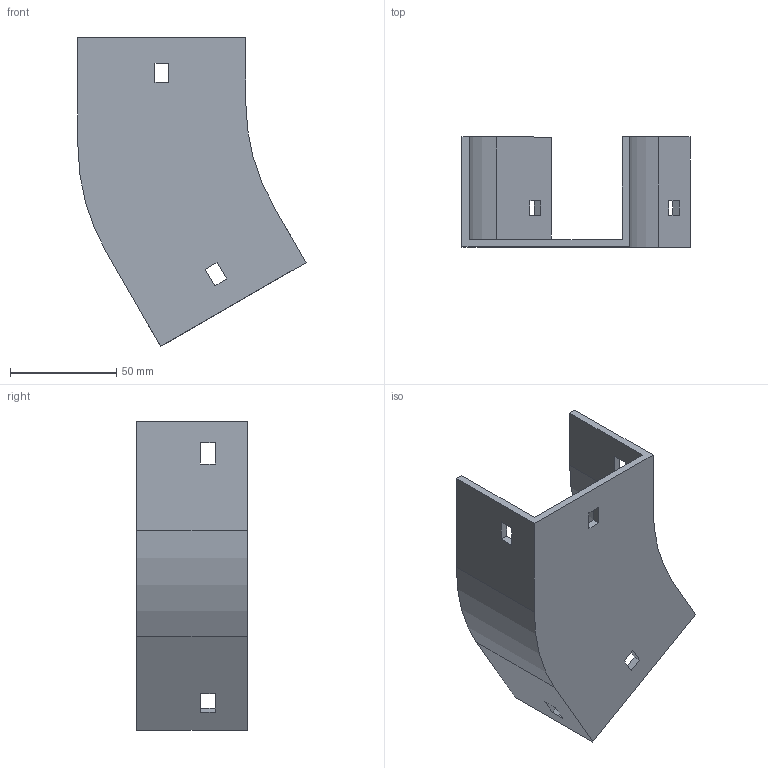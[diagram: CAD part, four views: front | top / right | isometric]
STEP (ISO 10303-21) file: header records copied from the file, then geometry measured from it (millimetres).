
FILE_DESCRIPTION (( 'STEP AP214' ), '1' );
FILE_NAME ('12F1B075.step', '2025-02-21T12:53:55', ( '' ), ( '' ), 'SwSTEP 2.0', 'SolidWorks 2023', '' );
FILE_SCHEMA (( 'AUTOMOTIVE_DESIGN' ));
Length unit declared in the file: millimetre
Products named in the file (1): 12F1B075
Bounding box: 107.4 x 52 x 145.48 mm (x, y, z)
Volume: 81203.7 mm3; surface area: 49261.8 mm2
Topology: 1 solids, 1 shells, 42 faces, 120 edges, 80 vertices
Faces by surface type: plane 38, cylinder 4
Entity records: 1399 total; most frequent: CARTESIAN_POINT 243, ORIENTED_EDGE 240, DIRECTION 214, EDGE_CURVE 120, VECTOR 112, LINE 112, VERTEX_POINT 80, EDGE_LOOP 54
